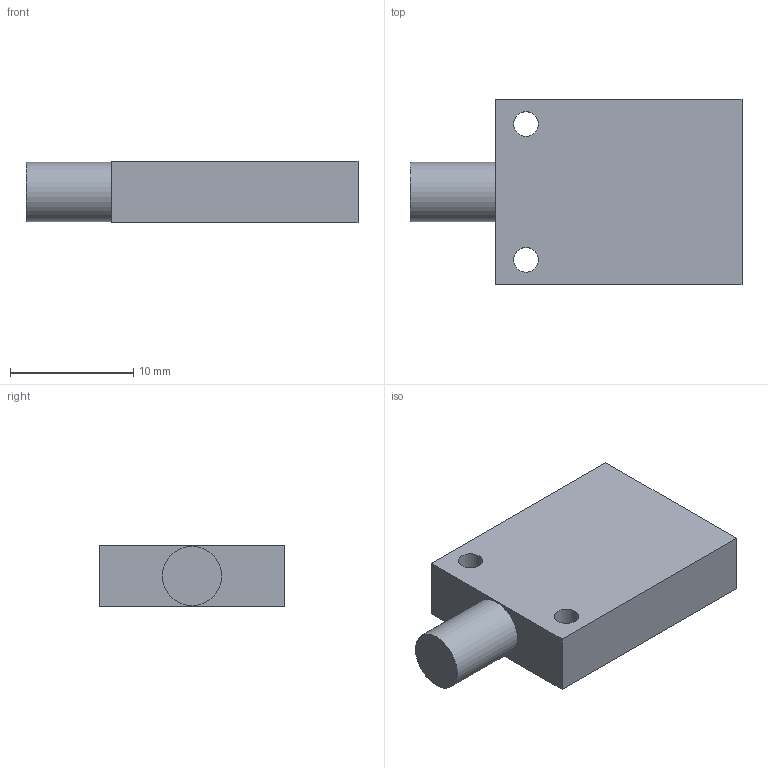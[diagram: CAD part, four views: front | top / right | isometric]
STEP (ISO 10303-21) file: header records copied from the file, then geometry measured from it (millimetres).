
FILE_DESCRIPTION(/* description */ ('STEP AP203'),/* implementation_level */ '2;1');
FILE_NAME(/* name */ 'P_MZ_FO_0108',/* time_stamp */ '2023-03-03T13:07:56+01:00',/* author */ ('License CC BY-ND 4.0'),/* organization */ ('CADENAS'),/* preprocessor_version */ 'ST-DEVELOPER v18.102',/* originating_system */ 'PARTsolutions',/* authorisation */ ' ');
FILE_SCHEMA (('CONFIG_CONTROL_DESIGN'));
Length unit declared in the file: millimetre
Products named in the file (1): P_MZ_FO_0108
Bounding box: 26.9 x 15 x 5 mm (x, y, z)
Volume: 1593.4 mm3; surface area: 1104.3 mm2
Topology: 1 solids, 1 shells, 10 faces, 21 edges, 14 vertices
Faces by surface type: plane 7, cylinder 3
Full cylindrical faces by diameter (mm): 2 x2, 4.8 x1
Entity records: 358 total; most frequent: DIRECTION 46, CARTESIAN_POINT 43, ORIENTED_EDGE 36, EDGE_CURVE 18, EDGE_LOOP 18, FACE_BOUND 18, AXIS2_PLACEMENT_3D 17, VERTEX_POINT 14
